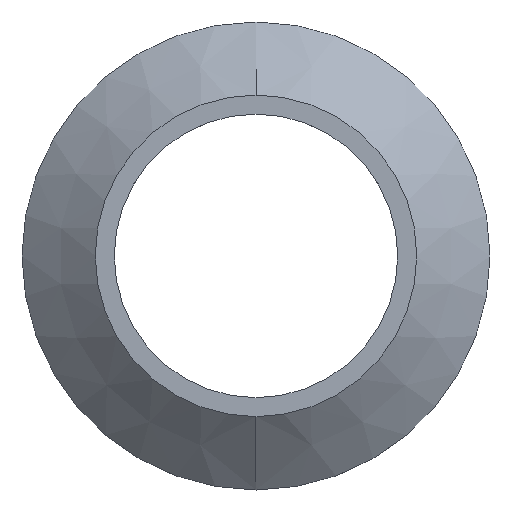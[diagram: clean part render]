
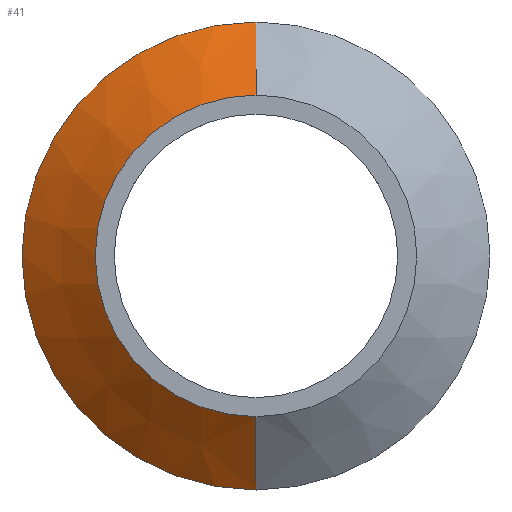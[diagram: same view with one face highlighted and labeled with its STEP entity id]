
A CAD part, top view. The second image highlights one B-rep face of the part: STEP entity #41.
In plain terms, the highlighted conical face has half-angle 51.34 degrees and reference radius 32.95 mm.
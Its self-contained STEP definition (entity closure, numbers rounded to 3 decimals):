
#27=CONICAL_SURFACE('',#199,32.95,0.896);
#41=ADVANCED_FACE('',(#51),#27,.T.);
#51=FACE_OUTER_BOUND('',#63,.F.);
#63=EDGE_LOOP('',(#91,#92,#93,#94));
#91=ORIENTED_EDGE('',*,*,#152,.T.);
#92=ORIENTED_EDGE('',*,*,#141,.F.);
#93=ORIENTED_EDGE('',*,*,#151,.F.);
#94=ORIENTED_EDGE('',*,*,#142,.T.);
#123=LINE('',#289,#131);
#124=LINE('',#290,#132);
#131=VECTOR('',#234,19.209);
#132=VECTOR('',#235,19.209);
#141=EDGE_CURVE('',#171,#172,#161,.T.);
#142=EDGE_CURVE('',#173,#174,#162,.T.);
#151=EDGE_CURVE('',#173,#171,#123,.T.);
#152=EDGE_CURVE('',#174,#172,#124,.T.);
#161=CIRCLE('',#187,47.95);
#162=CIRCLE('',#188,32.95);
#171=VERTEX_POINT('',#265);
#172=VERTEX_POINT('',#266);
#173=VERTEX_POINT('',#267);
#174=VERTEX_POINT('',#268);
#187=AXIS2_PLACEMENT_3D('',#279,#218,#219);
#188=AXIS2_PLACEMENT_3D('',#280,#220,#221);
#199=AXIS2_PLACEMENT_3D('',#299,#251,#250);
#218=DIRECTION('',(0.,0.,1.));
#219=DIRECTION('',(0.,1.,0.));
#220=DIRECTION('',(0.,0.,1.));
#221=DIRECTION('',(0.,1.,0.));
#234=DIRECTION('',(0.,0.781,-0.625));
#235=DIRECTION('',(0.,-0.781,-0.625));
#250=DIRECTION('',(0.,1.,0.));
#251=DIRECTION('',(0.,0.,-1.));
#265=CARTESIAN_POINT('',(0.,-153.3,-169.));
#266=CARTESIAN_POINT('',(0.,-249.2,-169.));
#267=CARTESIAN_POINT('',(0.,-168.3,-157.));
#268=CARTESIAN_POINT('',(0.,-234.2,-157.));
#279=CARTESIAN_POINT('',(0.,-201.25,-169.));
#280=CARTESIAN_POINT('',(0.,-201.25,-157.));
#289=CARTESIAN_POINT('',(0.,-168.3,-157.));
#290=CARTESIAN_POINT('',(0.,-234.2,-157.));
#299=CARTESIAN_POINT('',(0.,-201.25,-157.));
